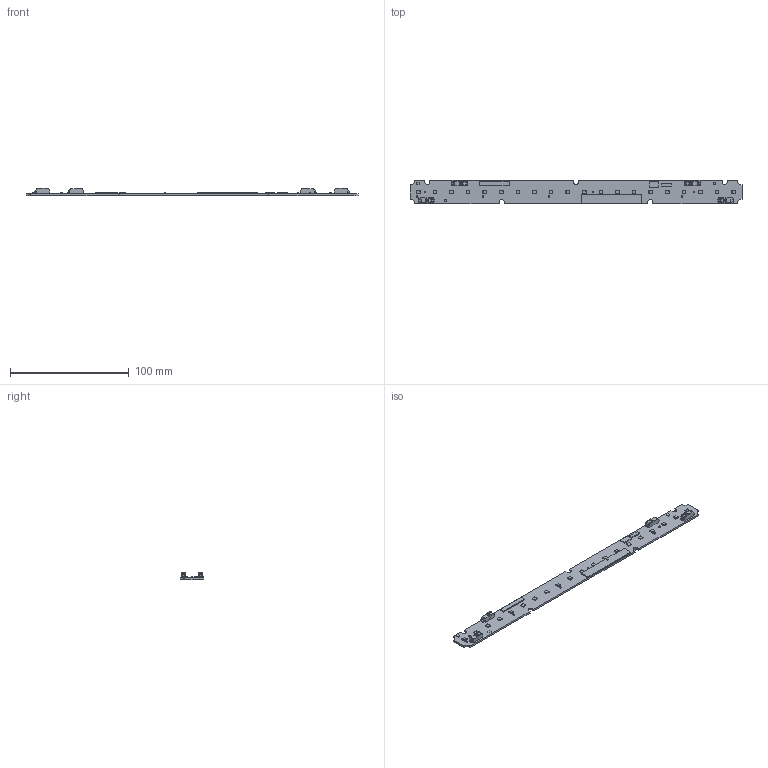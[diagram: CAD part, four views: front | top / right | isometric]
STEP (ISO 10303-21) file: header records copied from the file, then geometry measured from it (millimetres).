
FILE_DESCRIPTION((''),'2;1');
FILE_NAME('SC20SG110_06212021_10-08-02_ASM','2021-06-21T',('SYSTEM'),(''),'PRO/ENGINEER BY PARAMETRIC TECHNOLOGY CORPORATION, 2009360','PRO/ENGINEER BY PARAMETRIC TECHNOLOGY CORPORATION, 2009360','');
FILE_SCHEMA(('AUTOMOTIVE_DESIGN_CC2 { 1 2 10303 214 -1 1 5 2 }'));
Length unit declared in the file: inch
Products named in the file (11): SC20SG110_06212021_10-08-02; 3030_S_LES; RESC1608X84N; TC_R0_5MM; FIDUCIAL_R0_5MM; ROHS; UL; ARKALUMEN_LOGO_25MM; LABEL_BRACKET; WAGO-2060-1; SC20SG110_06212021_10-08-02_ASM
Assembly tree (40 placements, depth 2):
  SC20SG110_06212021_10-08-02_ASM
    SC20SG110_06212021_10-08-02
    3030_S_LES  x20
    RESC1608X84N  x5
    TC_R0_5MM  x3
    FIDUCIAL_R0_5MM  x3
    ROHS
    UL
    ARKALUMEN_LOGO_25MM
    LABEL_BRACKET
    WAGO-2060-1  x4
Bounding box: 279.2 x 20 x 6.34 mm (x, y, z)
Volume: 10017.7 mm3; surface area: 15195.4 mm2
Topology: 40 solids, 40 shells, 985 faces, 3157 edges, 2486 vertices
Faces by surface type: plane 861, cylinder 116, sphere 8
Entity records: 11435 total; most frequent: CARTESIAN_POINT 1776, ORIENTED_EDGE 1544, DIRECTION 1462, EDGE_CURVE 772, VECTOR 682, LINE 682, VERTEX_POINT 534, PRESENTATION_STYLE_ASSIGNMENT 509
